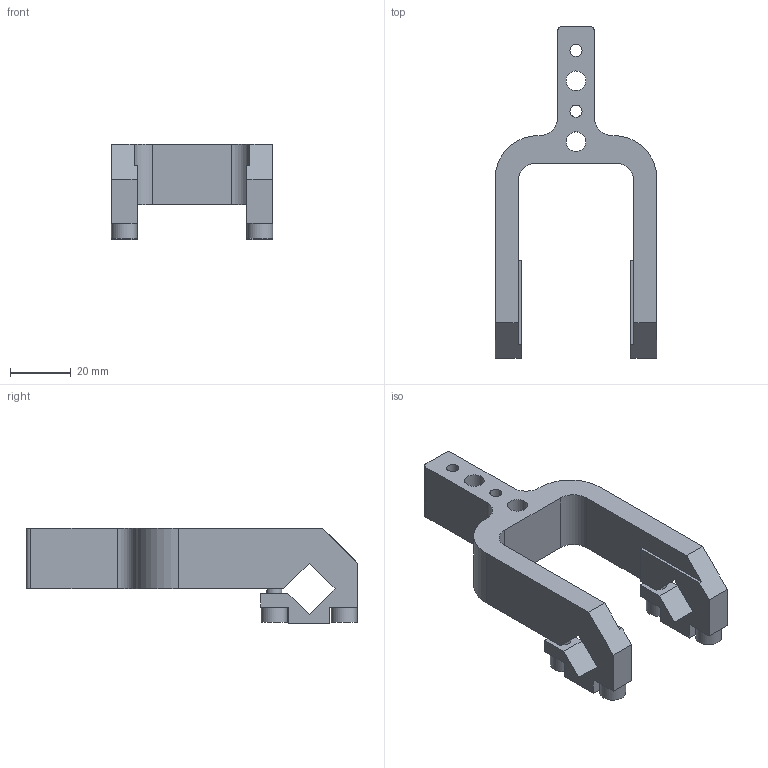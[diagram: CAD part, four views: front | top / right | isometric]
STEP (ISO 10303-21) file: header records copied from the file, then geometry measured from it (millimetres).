
FILE_DESCRIPTION(/* description */ (''),/* implementation_level */ '2;1');
FILE_NAME(/* name */ 'C:\PNX_VAULTFOLDER\Area Tecnica\Disegni\VARIE-3D\Componenti\7000\#12###\B12012.stp',/* time_stamp */ '2020-10-01T09:36:44+02:00',/* author */ ('donadda1'),/* organization */ ('Pneumax S.p.A.'),/* preprocessor_version */ 'ST-DEVELOPER v17.2',/* originating_system */ 'Autodesk Inventor 2019',/* authorisation */ '');
FILE_SCHEMA (('AUTOMOTIVE_DESIGN { 1 0 10303 214 3 1 1 }'));
Length unit declared in the file: millimetre
Products named in the file (1): B12012
Bounding box: 53 x 109 x 31.5 mm (x, y, z)
Volume: 37347.5 mm3; surface area: 15511.7 mm2
Topology: 1 solids, 1 shells, 70 faces, 192 edges, 124 vertices
Faces by surface type: plane 52, cylinder 18
Full cylindrical faces by diameter (mm): 4 x2, 5 x2, 6.5 x2, 8.5 x4
Entity records: 2265 total; most frequent: CARTESIAN_POINT 387, ORIENTED_EDGE 384, DIRECTION 374, EDGE_CURVE 192, LINE 152, VECTOR 152, VERTEX_POINT 124, AXIS2_PLACEMENT_3D 111
